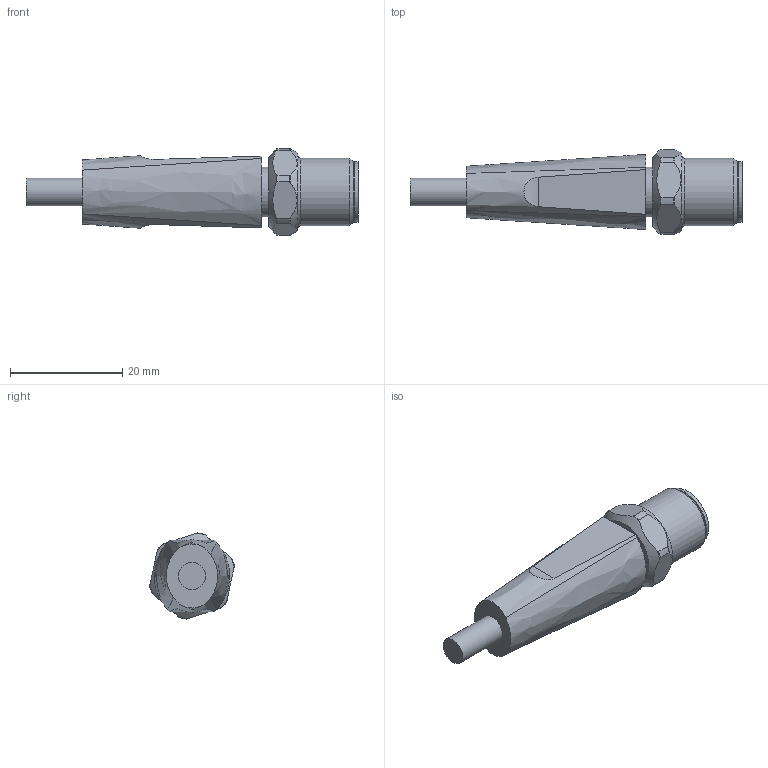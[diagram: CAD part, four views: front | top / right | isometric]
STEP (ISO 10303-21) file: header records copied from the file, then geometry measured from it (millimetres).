
FILE_DESCRIPTION( ( 'STEP AP203' ), '1' );
FILE_NAME( '//expscmdclustefs.cadenas.external/client_exchange/iodir/jobs/output/wkb81177641_no0/STEP/EVT071_2_03.stp', ' ', ( ' ' ), ( ' ' ), 'PSStep 15.0.47', 'PARTsolutions', ' ' );
FILE_SCHEMA( ( 'CONFIG_CONTROL_DESIGN' ) );
Length unit declared in the file: millimetre
Products named in the file (1): _EVT071
Bounding box: 59.15 x 15.08 x 15.37 mm (x, y, z)
Volume: 5427.9 mm3; surface area: 2744.8 mm2
Topology: 1 solids, 1 shells, 59 faces, 148 edges, 98 vertices
Faces by surface type: plane 21, torus 15, cylinder 15, bspline 4, cone 4
Full cylindrical faces by diameter (mm): 4.9 x1, 8.3 x1, 8.9 x1, 9.9 x1, 10.7 x1, 12 x1
Entity records: 2165 total; most frequent: CARTESIAN_POINT 856, ORIENTED_EDGE 266, DIRECTION 233, EDGE_CURVE 133, AXIS2_PLACEMENT_3D 103, VERTEX_POINT 94, EDGE_LOOP 77, FACE_OUTER_BOUND 66
